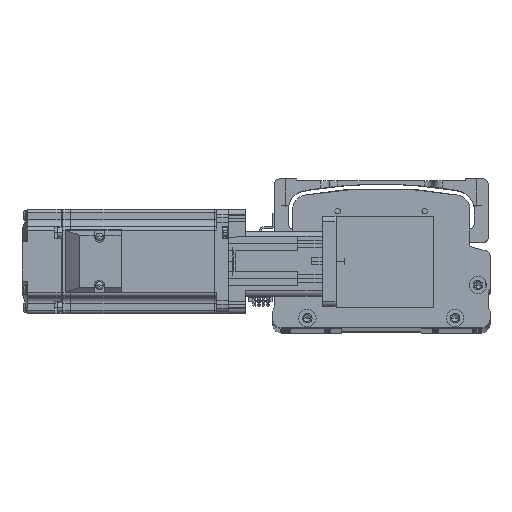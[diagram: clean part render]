
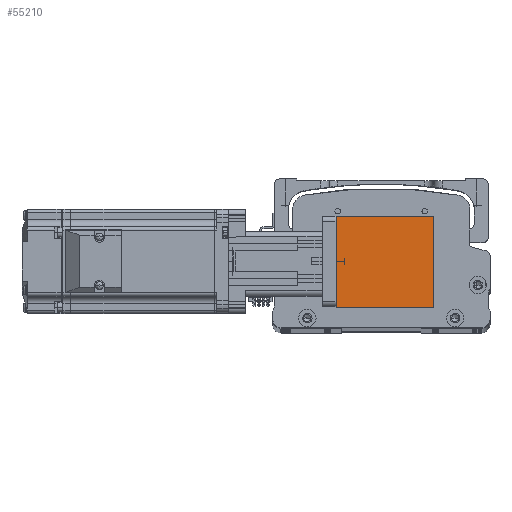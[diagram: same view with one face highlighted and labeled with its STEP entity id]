
A CAD part, top view. The second image highlights one B-rep face of the part: STEP entity #55210.
In plain terms, the highlighted planar face has unit normal (0, 0, 1) as drawn and (-1, 0, 0) by its records, which use the part's own axes.
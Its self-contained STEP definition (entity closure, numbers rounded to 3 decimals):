
#164 = CARTESIAN_POINT ( 'NONE',  ( -31.5, 26., 56. ) ) ;
#2011 = VERTEX_POINT ( 'NONE', #61224 ) ;
#5650 = VERTEX_POINT ( 'NONE', #54720 ) ;
#5695 = VERTEX_POINT ( 'NONE', #15175 ) ;
#6577 = EDGE_CURVE ( 'NONE', #5650, #2011, #46562, .T. ) ;
#7285 = AXIS2_PLACEMENT_3D ( 'NONE', #42230, #57587, #27508 ) ;
#9786 = DIRECTION ( 'NONE',  ( 0., -1., 0. ) ) ;
#12628 = CARTESIAN_POINT ( 'NONE',  ( -31.5, -26., 56. ) ) ;
#13717 = EDGE_LOOP ( 'NONE', ( #27138, #20534, #45242, #23968 ) ) ;
#14756 = DIRECTION ( 'NONE',  ( 0., -1., 0. ) ) ;
#15175 = CARTESIAN_POINT ( 'NONE',  ( -31.5, -26., 0. ) ) ;
#18107 = FACE_OUTER_BOUND ( 'NONE', #13717, .T. ) ;
#20534 = ORIENTED_EDGE ( 'NONE', *, *, #41441, .F. ) ;
#20645 = LINE ( 'NONE', #12628, #59147 ) ;
#22438 = PLANE ( 'NONE',  #7285 ) ;
#23968 = ORIENTED_EDGE ( 'NONE', *, *, #6577, .T. ) ;
#24400 = CARTESIAN_POINT ( 'NONE',  ( -31.5, -26., 0. ) ) ;
#24657 = CARTESIAN_POINT ( 'NONE',  ( -31.5, -26., 56. ) ) ;
#25165 = VECTOR ( 'NONE', #14756, 1000. ) ;
#26190 = VECTOR ( 'NONE', #9786, 1000. ) ;
#27138 = ORIENTED_EDGE ( 'NONE', *, *, #29772, .T. ) ;
#27508 = DIRECTION ( 'NONE',  ( 0., 0., -1. ) ) ;
#29772 = EDGE_CURVE ( 'NONE', #2011, #5695, #51898, .T. ) ;
#32197 = VERTEX_POINT ( 'NONE', #61782 ) ;
#33169 = VECTOR ( 'NONE', #60441, 1000. ) ;
#41441 = EDGE_CURVE ( 'NONE', #32197, #5695, #20645, .T. ) ;
#42230 = CARTESIAN_POINT ( 'NONE',  ( -31.5, -26., 56. ) ) ;
#45242 = ORIENTED_EDGE ( 'NONE', *, *, #58599, .F. ) ;
#46562 = LINE ( 'NONE', #164, #33169 ) ;
#51898 = LINE ( 'NONE', #24400, #25165 ) ;
#52912 = LINE ( 'NONE', #24657, #26190 ) ;
#53267 = DIRECTION ( 'NONE',  ( 0., 0., -1. ) ) ;
#54720 = CARTESIAN_POINT ( 'NONE',  ( -31.5, 26., 56. ) ) ;
#55210 = ADVANCED_FACE ( 'NONE', ( #18107 ), #22438, .F. ) ;
#57587 = DIRECTION ( 'NONE',  ( 1., 0., 0. ) ) ;
#58599 = EDGE_CURVE ( 'NONE', #5650, #32197, #52912, .T. ) ;
#59147 = VECTOR ( 'NONE', #53267, 1000. ) ;
#60441 = DIRECTION ( 'NONE',  ( 0., 0., -1. ) ) ;
#61224 = CARTESIAN_POINT ( 'NONE',  ( -31.5, 26., 0. ) ) ;
#61782 = CARTESIAN_POINT ( 'NONE',  ( -31.5, -26., 56. ) ) ;
